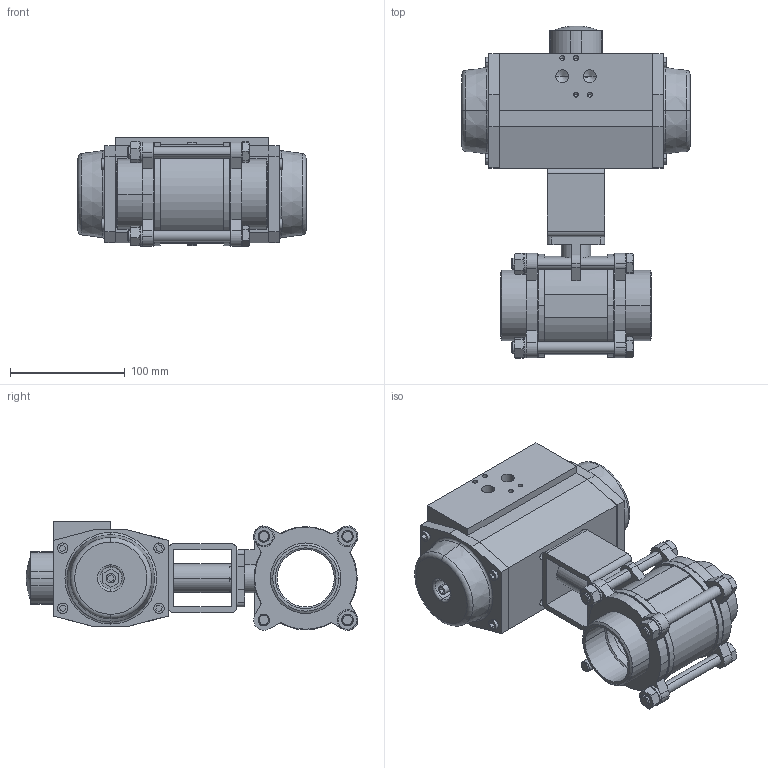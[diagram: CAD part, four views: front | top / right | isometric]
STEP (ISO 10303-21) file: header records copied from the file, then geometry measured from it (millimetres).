
FILE_DESCRIPTION (( 'STEP AP214' ), '1' );
FILE_NAME ('A13 DN50-2 BW + AP3D.STEP', '2012-04-23T09:21:09', ( '' ), ( '' ), 'SwSTEP 2.0', 'SolidWorks 2011', '' );
FILE_SCHEMA (( 'AUTOMOTIVE_DESIGN' ));
Length unit declared in the file: millimetre
Products named in the file (9): A13 DN50 Buttweld; Brugstuk simplified_YB6060F5F5-3; Spring washer DIN 128 - A10_Spring washer DIN 128 - A10; Hexagon Nut ISO 4032 - M10 - D - N_Hexagon Nut ISO 4032 - M10 - D - N; _ISO 4014 - M10 x 100 x 26-N; A13 Flens Buttweld DN50; A13 KK DN50 PN63; A13 DN50-2 BW + AP3D; AP3_Default<As Machined>
Assembly tree (16 placements, depth 3):
  A13 DN50-2 BW + AP3D
    A13 DN50 Buttweld
      Spring washer DIN 128 - A10_Spring washer DIN 128 - A10  x3
      A13 KK DN50 PN63
      _ISO 4014 - M10 x 100 x 26-N  x4
      Hexagon Nut ISO 4032 - M10 - D - N_Hexagon Nut ISO 4032 - M10 - D - N  x3
      A13 Flens Buttweld DN50  x2
    AP3_Default<As Machined>
    Brugstuk simplified_YB6060F5F5-3
Bounding box: 199 x 289.63 x 95.14 mm (x, y, z)
Volume: 2045245.6 mm3; surface area: 250748 mm2
Topology: 22 solids, 22 shells, 700 faces, 1646 edges, 1015 vertices
Faces by surface type: plane 334, cylinder 202, cone 136, torus 26, sphere 2
Entity records: 16269 total; most frequent: CARTESIAN_POINT 2752, DIRECTION 2541, ORIENTED_EDGE 2326, EDGE_CURVE 1163, AXIS2_PLACEMENT_3D 902, VERTEX_POINT 749, LINE 737, VECTOR 737
